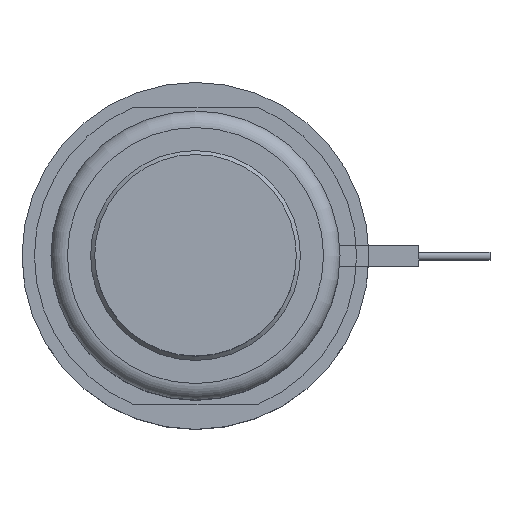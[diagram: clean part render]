
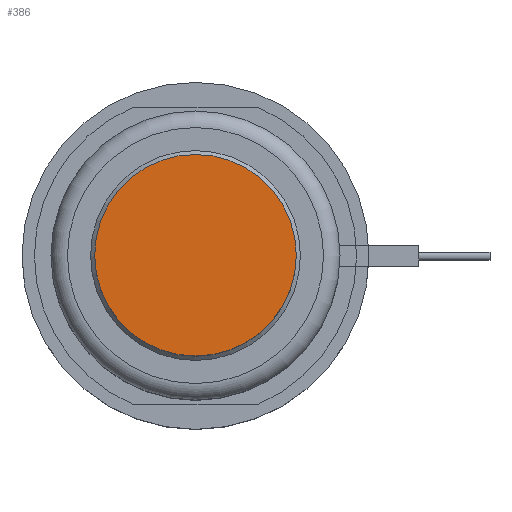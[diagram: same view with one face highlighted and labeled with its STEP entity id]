
A CAD part, top view. The second image highlights one B-rep face of the part: STEP entity #386.
In plain terms, the highlighted planar face has unit normal (0, 0, 1).
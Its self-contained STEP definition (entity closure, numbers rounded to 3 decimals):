
#291=CIRCLE('',#1391,12.2);
#386=ADVANCED_FACE('',(#501),#441,.F.);
#441=PLANE('',#1392);
#501=FACE_OUTER_BOUND('',#622,.T.);
#622=EDGE_LOOP('',(#870));
#870=ORIENTED_EDGE('',*,*,#1137,.F.);
#1007=VERTEX_POINT('',#2172);
#1137=EDGE_CURVE('',#1007,#1007,#291,.T.);
#1391=AXIS2_PLACEMENT_3D('',#2171,#1723,#1724);
#1392=AXIS2_PLACEMENT_3D('',#2173,#1725,#1726);
#1723=DIRECTION('',(0.,0.,-1.));
#1724=DIRECTION('',(-1.,0.,0.));
#1725=DIRECTION('',(0.,0.,-1.));
#1726=DIRECTION('',(-1.,0.,0.));
#2171=CARTESIAN_POINT('',(0.,0.,18.));
#2172=CARTESIAN_POINT('',(-12.2,0.,18.));
#2173=CARTESIAN_POINT('',(0.,0.,18.));
